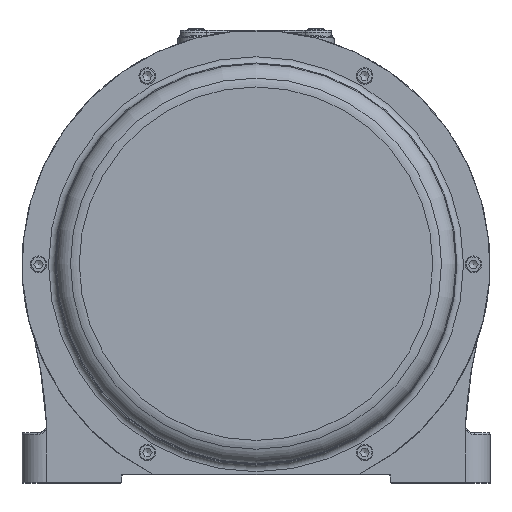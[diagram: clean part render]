
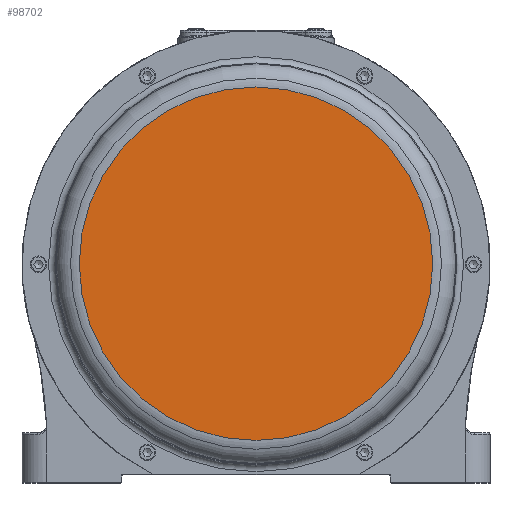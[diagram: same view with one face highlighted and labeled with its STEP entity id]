
A CAD part, top view. The second image highlights one B-rep face of the part: STEP entity #98702.
In plain terms, the highlighted planar face has unit normal (0, 0, 1).
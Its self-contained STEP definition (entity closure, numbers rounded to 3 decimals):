
#12116=FACE_OUTER_BOUND('',#17781,.T.);
#17781=EDGE_LOOP('',(#74643));
#40339=CIRCLE('',#106284,106.5);
#43960=VERTEX_POINT('',#185152);
#55261=EDGE_CURVE('',#43960,#43960,#40339,.T.);
#74643=ORIENTED_EDGE('',*,*,#55261,.F.);
#94373=PLANE('',#106283);
#98702=ADVANCED_FACE('',(#12116),#94373,.T.);
#106283=AXIS2_PLACEMENT_3D('',#185151,#118869,#118870);
#106284=AXIS2_PLACEMENT_3D('',#185153,#118871,#118872);
#118869=DIRECTION('center_axis',(0.,0.,
1.));
#118870=DIRECTION('ref_axis',(0.,-1.,0.));
#118871=DIRECTION('center_axis',(0.,0.,
-1.));
#118872=DIRECTION('ref_axis',(-1.,0.,0.));
#185151=CARTESIAN_POINT('Origin',(60.005,2.887,321.75));
#185152=CARTESIAN_POINT('',(-0.495,-103.613,321.75));
#185153=CARTESIAN_POINT('Origin',(-0.495,2.887,321.75));
